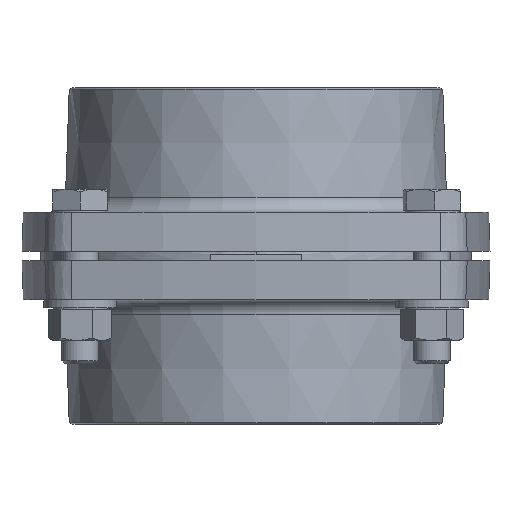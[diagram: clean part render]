
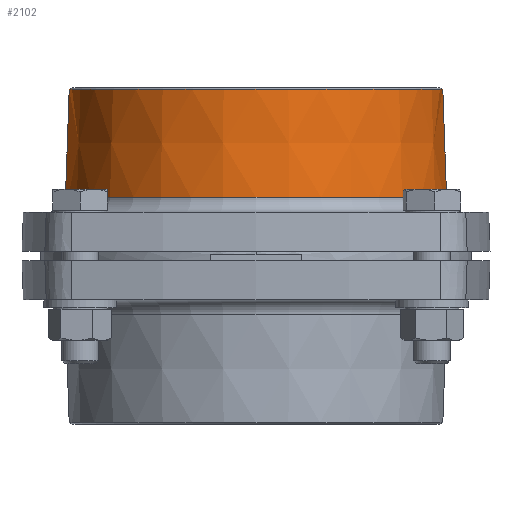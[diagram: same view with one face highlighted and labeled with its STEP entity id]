
A CAD part, front view. The second image highlights one B-rep face of the part: STEP entity #2102.
In plain terms, the highlighted conical face has half-angle 2 degrees and reference radius 63 mm.
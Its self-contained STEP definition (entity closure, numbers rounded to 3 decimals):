
#2102 = ADVANCED_FACE ( 'NONE', ( #13091 ), #13096, .T. ) ;
#2152 = ORIENTED_EDGE ( 'NONE', *, *, #2958, .T. ) ;
#2153 = ORIENTED_EDGE ( 'NONE', *, *, #2957, .T. ) ;
#2154 = ORIENTED_EDGE ( 'NONE', *, *, #2962, .T. ) ;
#2155 = ORIENTED_EDGE ( 'NONE', *, *, #2956, .F. ) ;
#2956 = EDGE_CURVE ( 'NONE', #3387, #3420, #15390, .T. ) ;
#2957 = EDGE_CURVE ( 'NONE', #3386, #3417, #15395, .T. ) ;
#2958 = EDGE_CURVE ( 'NONE', #3387, #3386, #15393, .T. ) ;
#2962 = EDGE_CURVE ( 'NONE', #3417, #3420, #15400, .T. ) ;
#3386 = VERTEX_POINT ( 'NONE', #15840 ) ;
#3387 = VERTEX_POINT ( 'NONE', #15827 ) ;
#3417 = VERTEX_POINT ( 'NONE', #15870 ) ;
#3420 = VERTEX_POINT ( 'NONE', #15873 ) ;
#4127 = EDGE_LOOP ( 'NONE', ( #2152, #2153, #2154, #2155 ) ) ;
#12446 = CARTESIAN_POINT ( 'NONE',  ( -27.81, 14.557, -9.215 ) ) ;
#12447 = DIRECTION ( 'NONE',  ( 0., 0., -1. ) ) ;
#12455 = DIRECTION ( 'NONE',  ( 1., 0., 0. ) ) ;
#12658 = AXIS2_PLACEMENT_3D ( 'NONE', #12446, #12447, #12455 ) ;
#12969 = AXIS2_PLACEMENT_3D ( 'NONE', #15747, #15748, #15749 ) ;
#12973 = AXIS2_PLACEMENT_3D ( 'NONE', #15762, #15763, #15764 ) ;
#13091 = FACE_OUTER_BOUND ( 'NONE', #4127, .T. ) ;
#13096 = CONICAL_SURFACE ( 'NONE', #12658, 63., 0.035 ) ;
#15390 = LINE ( 'NONE', #15740, #15396 ) ;
#15393 = CIRCLE ( 'NONE', #12969, 61.589 ) ;
#15395 = LINE ( 'NONE', #15745, #15398 ) ;
#15396 = VECTOR ( 'NONE', #15744, 1000. ) ;
#15398 = VECTOR ( 'NONE', #15746, 1000. ) ;
#15400 = CIRCLE ( 'NONE', #12973, 62.831 ) ;
#15740 = CARTESIAN_POINT ( 'NONE',  ( 35.19, 14.557, -9.215 ) ) ;
#15744 = DIRECTION ( 'NONE',  ( 0.035, 0., -0.999 ) ) ;
#15745 = CARTESIAN_POINT ( 'NONE',  ( -90.81, 14.557, -9.215 ) ) ;
#15746 = DIRECTION ( 'NONE',  ( -0.035, 0., -0.999 ) ) ;
#15747 = CARTESIAN_POINT ( 'NONE',  ( -27.81, 14.557, 31.201 ) ) ;
#15748 = DIRECTION ( 'NONE',  ( 0., 0., -1. ) ) ;
#15749 = DIRECTION ( 'NONE',  ( -1., 0., 0. ) ) ;
#15762 = CARTESIAN_POINT ( 'NONE',  ( -27.81, 14.557, -4.389 ) ) ;
#15763 = DIRECTION ( 'NONE',  ( 0., 0., 1. ) ) ;
#15764 = DIRECTION ( 'NONE',  ( 1., 0., 0. ) ) ;
#15827 = CARTESIAN_POINT ( 'NONE',  ( 33.779, 14.557, 31.201 ) ) ;
#15840 = CARTESIAN_POINT ( 'NONE',  ( -89.399, 14.557, 31.201 ) ) ;
#15870 = CARTESIAN_POINT ( 'NONE',  ( -90.641, 14.557, -4.389 ) ) ;
#15873 = CARTESIAN_POINT ( 'NONE',  ( 35.021, 14.557, -4.389 ) ) ;
